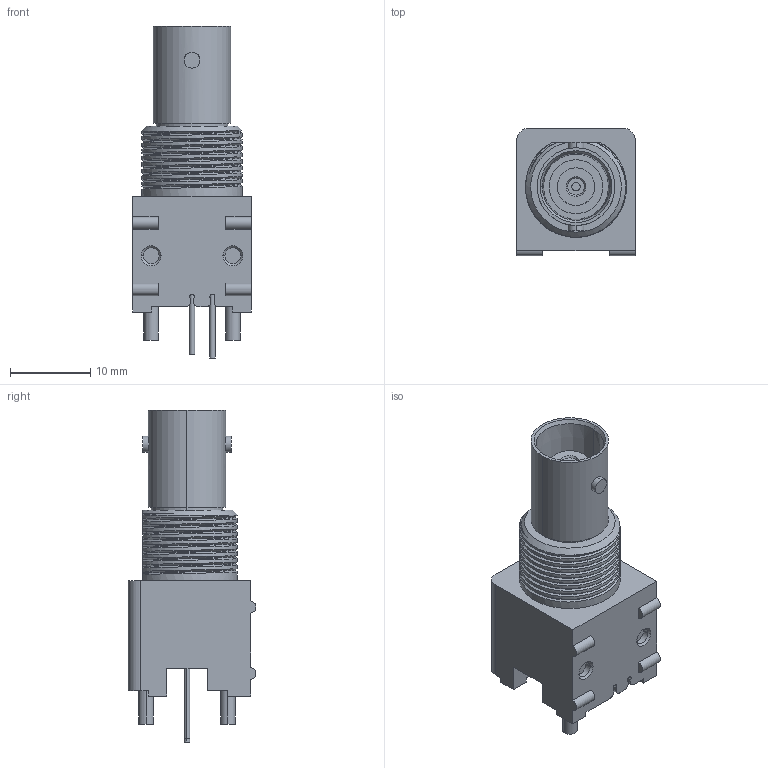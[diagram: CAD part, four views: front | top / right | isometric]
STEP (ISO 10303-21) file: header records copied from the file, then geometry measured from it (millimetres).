
FILE_DESCRIPTION((''),'2;1');
FILE_NAME('C-5227222-3','2015-07-14T',('workeradm'),('Tyco Electronics Ltd.'),'PRO/ENGINEER BY PARAMETRIC TECHNOLOGY CORPORATION, 2014090','PRO/ENGINEER BY PARAMETRIC TECHNOLOGY CORPORATION, 2014090','');
FILE_SCHEMA(('AUTOMOTIVE_DESIGN { 1 0 10303 214 1 1 1 1 }'));
Length unit declared in the file: millimetre
Products named in the file (1): C-5227222-3
Bounding box: 14.76 x 15.88 x 41.27 mm (x, y, z)
Volume: 4265 mm3; surface area: 2631 mm2
Topology: 1 solids, 1 shells, 185 faces, 484 edges, 318 vertices
Faces by surface type: plane 70, cylinder 60, bspline 37, cone 16, torus 2
Entity records: 15528 total; most frequent: CARTESIAN_POINT 10975, ORIENTED_EDGE 968, DIRECTION 813, EDGE_CURVE 484, VERTEX_POINT 318, AXIS2_PLACEMENT_3D 283, VECTOR 247, LINE 247
